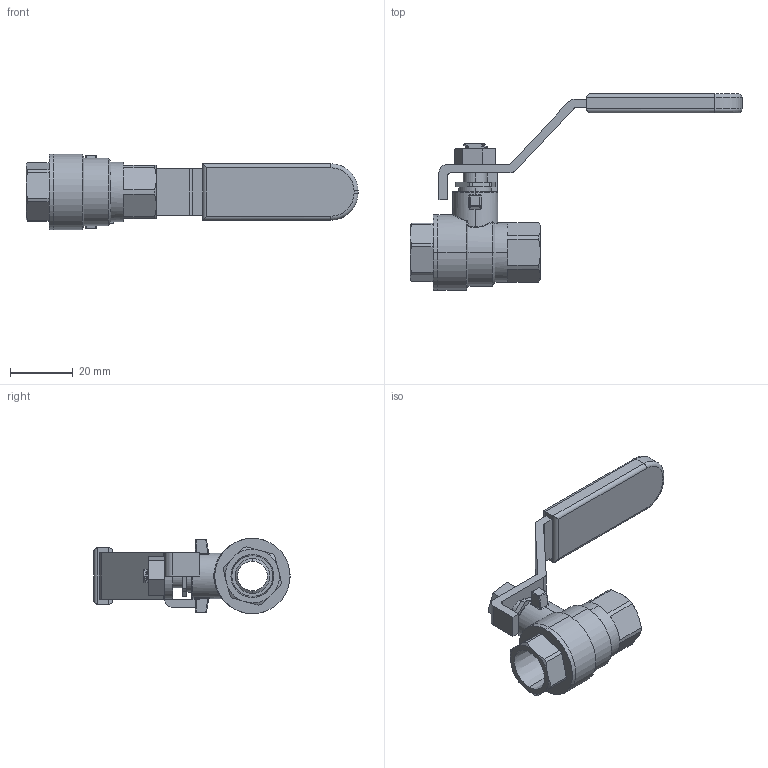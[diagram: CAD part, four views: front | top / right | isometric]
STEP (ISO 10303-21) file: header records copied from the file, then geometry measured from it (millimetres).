
FILE_DESCRIPTION (( 'STEP AP203' ), '1' );
FILE_NAME ('BGF-2.STEP', '2021-06-23T15:45:52', ( 'Owner' ), ( '' ), 'SwSTEP 2.0', 'SolidWorks 2017', '' );
FILE_SCHEMA (( 'CONFIG_CONTROL_DESIGN' ));
Length unit declared in the file: inch
Products named in the file (2): BGF-2
Bounding box: 106.17 x 62.76 x 24.13 mm (x, y, z)
Volume: 19518.8 mm3; surface area: 10800.4 mm2
Topology: 1 solids, 1 shells, 273 faces, 731 edges, 456 vertices
Faces by surface type: plane 81, cylinder 78, bspline 51, cone 40, sphere 12, torus 11
Entity records: 15671 total; most frequent: CARTESIAN_POINT 9230, ORIENTED_EDGE 1454, DIRECTION 1177, EDGE_CURVE 727, VERTEX_POINT 456, AXIS2_PLACEMENT_3D 446, EDGE_LOOP 293, LINE 285
